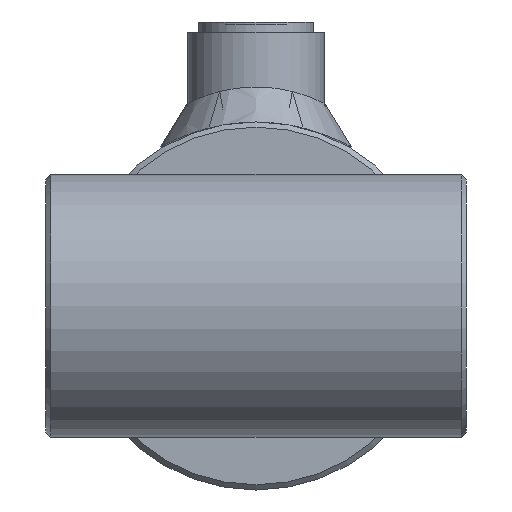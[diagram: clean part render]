
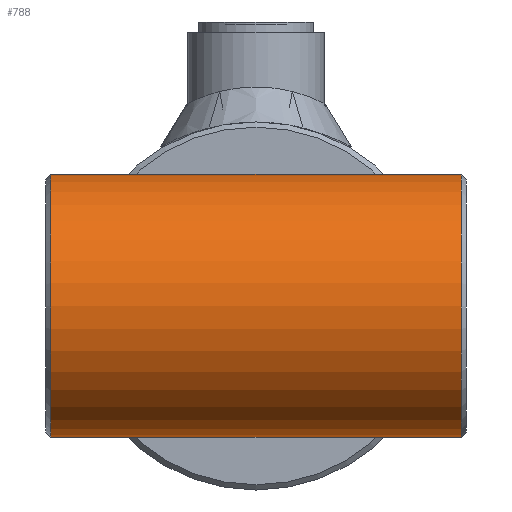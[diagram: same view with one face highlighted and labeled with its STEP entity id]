
A CAD part, left-side view. The second image highlights one B-rep face of the part: STEP entity #788.
In plain terms, the highlighted cylindrical face has radius 25 mm (diameter 50 mm), a full revolution.
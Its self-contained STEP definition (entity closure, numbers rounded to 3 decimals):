
#788 = ADVANCED_FACE( '', ( #1494, #1495 ), #1496, .T. );
#1494 = FACE_OUTER_BOUND( '', #2990, .T. );
#1495 = FACE_OUTER_BOUND( '', #2991, .T. );
#1496 = CYLINDRICAL_SURFACE( '', #2992, 25. );
#2990 = EDGE_LOOP( '', ( #10195 ) );
#2991 = EDGE_LOOP( '', ( #10196 ) );
#2992 = AXIS2_PLACEMENT_3D( '', #10197, #10198, #10199 );
#10195 = ORIENTED_EDGE( '', *, *, #11679, .T. );
#10196 = ORIENTED_EDGE( '', *, *, #11680, .T. );
#10197 = CARTESIAN_POINT( '', ( 0., -40., 0. ) );
#10198 = DIRECTION( '', ( 0., -1., 0. ) );
#10199 = DIRECTION( '', ( 0., 0., 1. ) );
#11679 = EDGE_CURVE( '', #12554, #12554, #12555, .F. );
#11680 = EDGE_CURVE( '', #12556, #12556, #12557, .T. );
#12554 = VERTEX_POINT( '', #13948 );
#12555 = CIRCLE( '', #13949, 25. );
#12556 = VERTEX_POINT( '', #13950 );
#12557 = CIRCLE( '', #13951, 25. );
#13948 = CARTESIAN_POINT( '', ( 0., 39., 25. ) );
#13949 = AXIS2_PLACEMENT_3D( '', #17167, #17168, #17169 );
#13950 = CARTESIAN_POINT( '', ( 0., -39., 25. ) );
#13951 = AXIS2_PLACEMENT_3D( '', #17170, #17171, #17172 );
#17167 = CARTESIAN_POINT( '', ( 0., 39., 0. ) );
#17168 = DIRECTION( '', ( 0., 1., 0. ) );
#17169 = DIRECTION( '', ( 0., 0., 1. ) );
#17170 = CARTESIAN_POINT( '', ( 0., -39., 0. ) );
#17171 = DIRECTION( '', ( 0., 1., 0. ) );
#17172 = DIRECTION( '', ( 0., 0., 1. ) );
